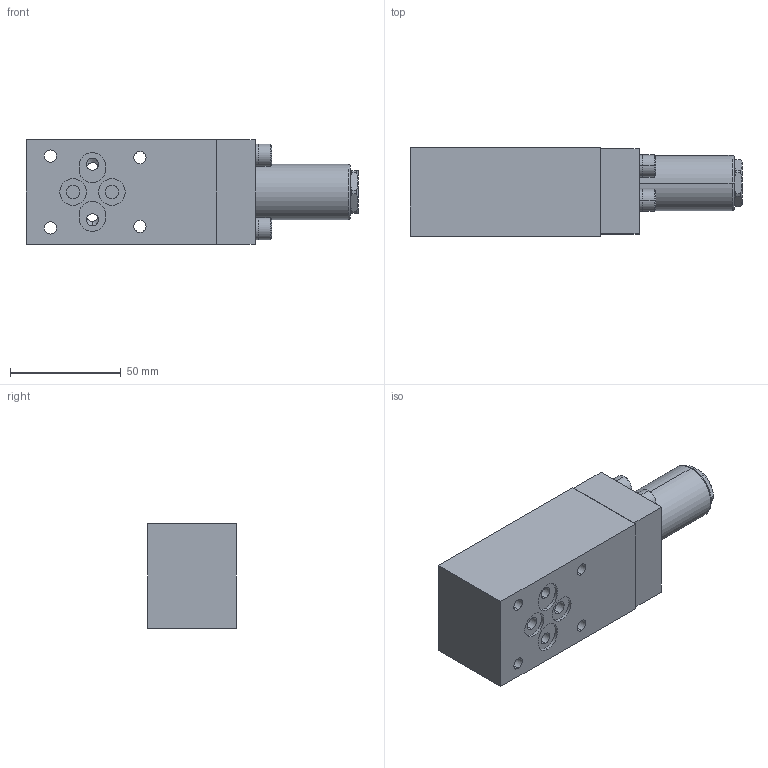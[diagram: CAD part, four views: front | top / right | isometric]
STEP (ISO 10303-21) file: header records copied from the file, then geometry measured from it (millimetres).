
FILE_DESCRIPTION (( 'STEP AP203' ), '1' );
FILE_NAME ('BSP3x0-0AxR.step', '2010-03-12T04:10:35', ( ' ' ), ( ' ' ), 'SwSTEP 2.0', 'SolidWorks 2009', '' );
FILE_SCHEMA (( 'CONFIG_CONTROL_DESIGN' ));
Length unit declared in the file: millimetre
Products named in the file (9): BSP3x0-0AxR.sldasm-Part-4; BSP3x0-0AxR.sldasm-Part-5; BSP3x0-0AxR.sldasm-Part-6; BSP3x0-0AxR.sldasm-Part-7; BSP3x0-0AxR.sldasm-Part-2; BSP3x0-0AxR.sldasm-Part-3; BSP3x0-0AxR.sldasm-Part-8; BSP3x0-0AxR; BSP3x0-0AxR.sldasm-Part-1
Assembly tree (11 placements, depth 2):
  BSP3x0-0AxR
    BSP3x0-0AxR.sldasm-Part-3
    BSP3x0-0AxR.sldasm-Part-4
    BSP3x0-0AxR.sldasm-Part-5  x4
    BSP3x0-0AxR.sldasm-Part-7
    BSP3x0-0AxR.sldasm-Part-6
    BSP3x0-0AxR.sldasm-Part-8
    BSP3x0-0AxR.sldasm-Part-2
    BSP3x0-0AxR.sldasm-Part-1
Bounding box: 150 x 40 x 47 mm (x, y, z)
Volume: 210125.4 mm3; surface area: 36436.9 mm2
Topology: 11 solids, 11 shells, 170 faces, 393 edges, 258 vertices
Faces by surface type: plane 79, cylinder 66, cone 23, torus 2
Entity records: 5576 total; most frequent: CARTESIAN_POINT 925, DIRECTION 797, ORIENTED_EDGE 714, EDGE_CURVE 357, AXIS2_PLACEMENT_3D 302, VERTEX_POINT 234, VECTOR 193, LINE 193
